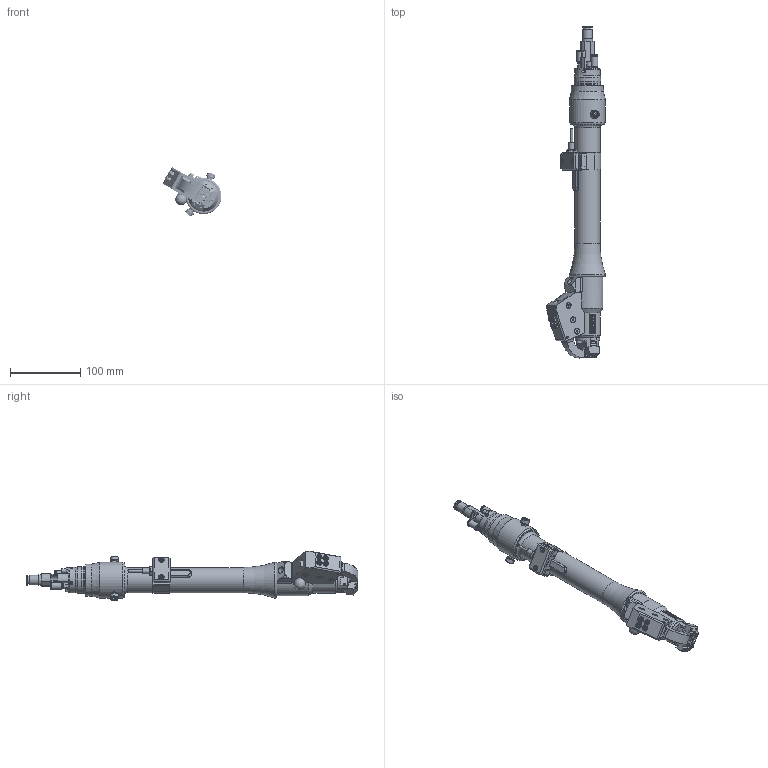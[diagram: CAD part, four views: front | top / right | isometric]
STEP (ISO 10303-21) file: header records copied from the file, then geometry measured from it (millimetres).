
FILE_DESCRIPTION(/* description */ (''),/* implementation_level */ '2;1');
FILE_NAME(/* name */ 'G:\Modelle für Marketing\3Ds Parasolid\3D-Parasolid_handheld_nutrunner_HMH_series.stp',/* time_stamp */ '2016-07-28T11:14:31+02:00',/* author */ ('wolf'),/* organization */ (''),/* preprocessor_version */ 'ST-DEVELOPER v15.2',/* originating_system */ 'Autodesk Inventor 2014',/* authorisation */ '');
FILE_SCHEMA (('AUTOMOTIVE_DESIGN { 1 0 10303 214 3 1 1 }'));
Length unit declared in the file: millimetre
Products named in the file (1): 3D-Parasolid_handheld_nutrunner_HMH_series
Bounding box: 83.88 x 473.36 x 71.03 mm (x, y, z)
Volume: 304829 mm3; surface area: 184341.8 mm2
Topology: 18 solids, 69 shells, 2433 faces, 6349 edges, 4109 vertices
Faces by surface type: plane 1268, cylinder 746, cone 251, bspline 79, torus 61, sphere 28
Full cylindrical faces by diameter (mm): 0.505 x1, 0.547 x1, 1.2 x1, 1.35 x1, 1.4 x1, 1.6 x2, 1.8 x1, 2 x5, 2.013 x1, 2.02 x1, 2.1 x1, 2.224 x1, 2.3 x2, 2.4 x8, 2.459 x14, 2.5 x7, 2.6 x2, 2.8 x5, 2.9 x1, 3 x30, 3.03 x1, 3.04 x2, 3.1 x2, 3.2 x9, 3.242 x12, 3.5 x2, 3.6 x7, 4 x34, 4.1 x2, 4.134 x8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
Entity records: 89603 total; most frequent: CARTESIAN_POINT 33191, DIRECTION 11068, ORIENTED_EDGE 10724, EDGE_CURVE 5362, AXIS2_PLACEMENT_3D 4275, VERTEX_POINT 3781, EDGE_LOOP 3371, LINE 2518
